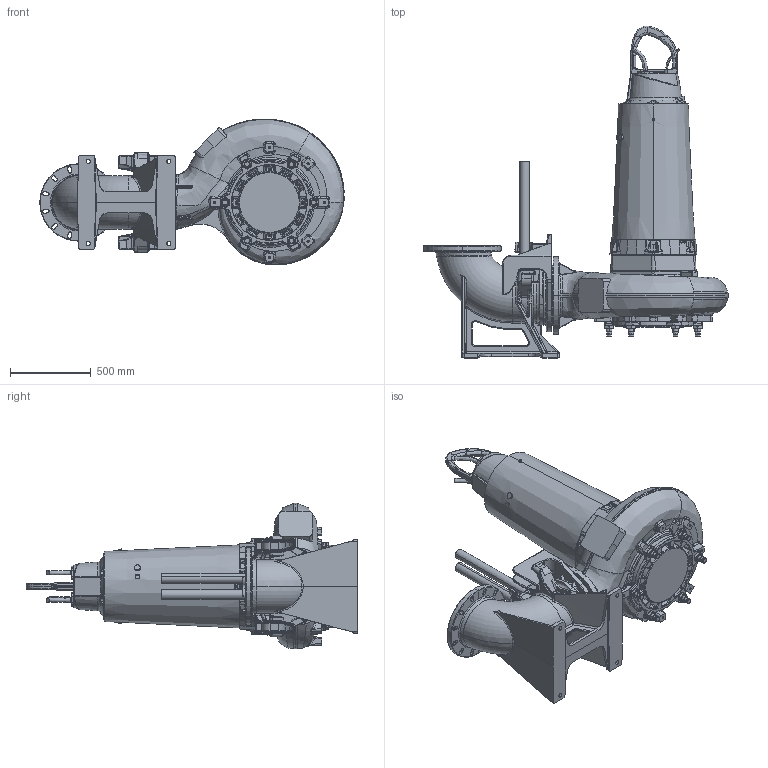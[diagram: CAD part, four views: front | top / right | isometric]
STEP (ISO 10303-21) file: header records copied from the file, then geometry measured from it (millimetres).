
FILE_DESCRIPTION (( 'STEP AP214' ), '1' );
FILE_NAME ('PE5_XFP306M-CB2_WET 2guide_A_NG2.STEP', '2017-03-14T06:53:35', ( '' ), ( '' ), 'SwSTEP 2.0', 'SolidWorks 2017', '' );
FILE_SCHEMA (( 'AUTOMOTIVE_DESIGN' ));
Length unit declared in the file: millimetre
Products named in the file (1): PE5_XFP306M-CB2_WET 2guide_A_NG2
Bounding box: 1889.63 x 2059.99 x 905.57 mm (x, y, z)
Volume: 99153585.5 mm3; surface area: 8718229.3 mm2
Topology: 23 solids, 24 shells, 4575 faces, 11244 edges, 6641 vertices
Faces by surface type: bspline 1398, cylinder 1241, plane 911, torus 464, cone 452, sphere 109
Entity records: 276494 total; most frequent: CARTESIAN_POINT 130585, ORIENTED_EDGE 22102, DIRECTION 17359, EDGE_CURVE 11051, AXIS2_PLACEMENT_3D 7068, VERTEX_POINT 6633, EDGE_LOOP 4818, UNCERTAINTY_MEASURE_WITH_UNIT 4582
